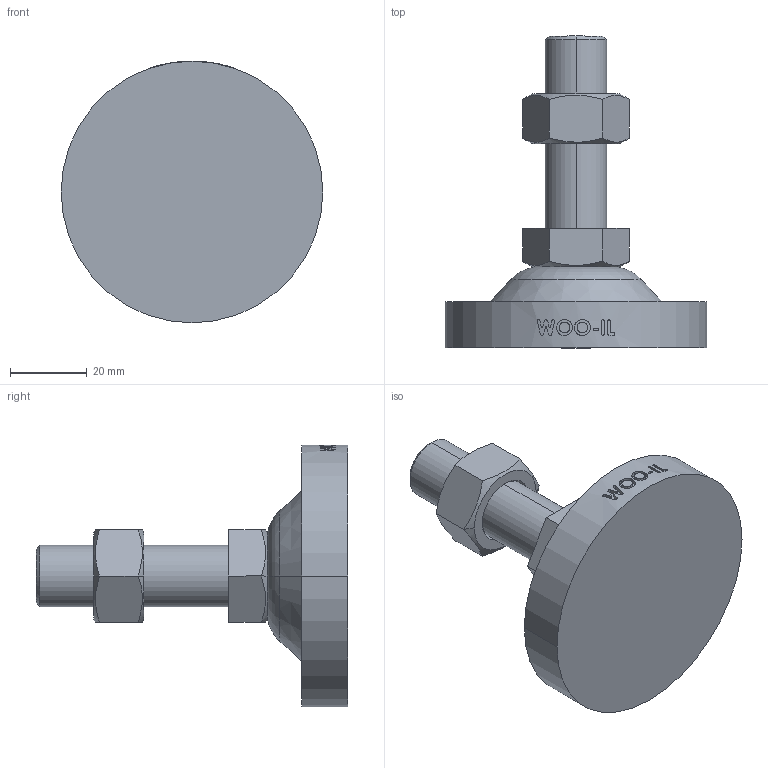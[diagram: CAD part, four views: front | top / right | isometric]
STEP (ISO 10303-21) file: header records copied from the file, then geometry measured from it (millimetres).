
FILE_DESCRIPTION (( 'STEP AP214' ), '1' );
FILE_NAME ('RB68-M16-50.step', '2021-01-18T05:51:15', ( '' ), ( '' ), 'SwSTEP 2.0', 'SolidWorks 2019', '' );
FILE_SCHEMA (( 'AUTOMOTIVE_DESIGN' ));
Length unit declared in the file: millimetre
Products named in the file (2): RB68-M16-50
Bounding box: 68 x 81 x 68 mm (x, y, z)
Volume: 67001.9 mm3; surface area: 18534.8 mm2
Topology: 2 solids, 3 shells, 128 faces, 317 edges, 206 vertices
Faces by surface type: plane 48, cylinder 42, bspline 18, cone 16, torus 4
Entity records: 5349 total; most frequent: CARTESIAN_POINT 2507, ORIENTED_EDGE 634, DIRECTION 479, EDGE_CURVE 317, VERTEX_POINT 206, AXIS2_PLACEMENT_3D 176, EDGE_LOOP 141, ADVANCED_FACE 128
